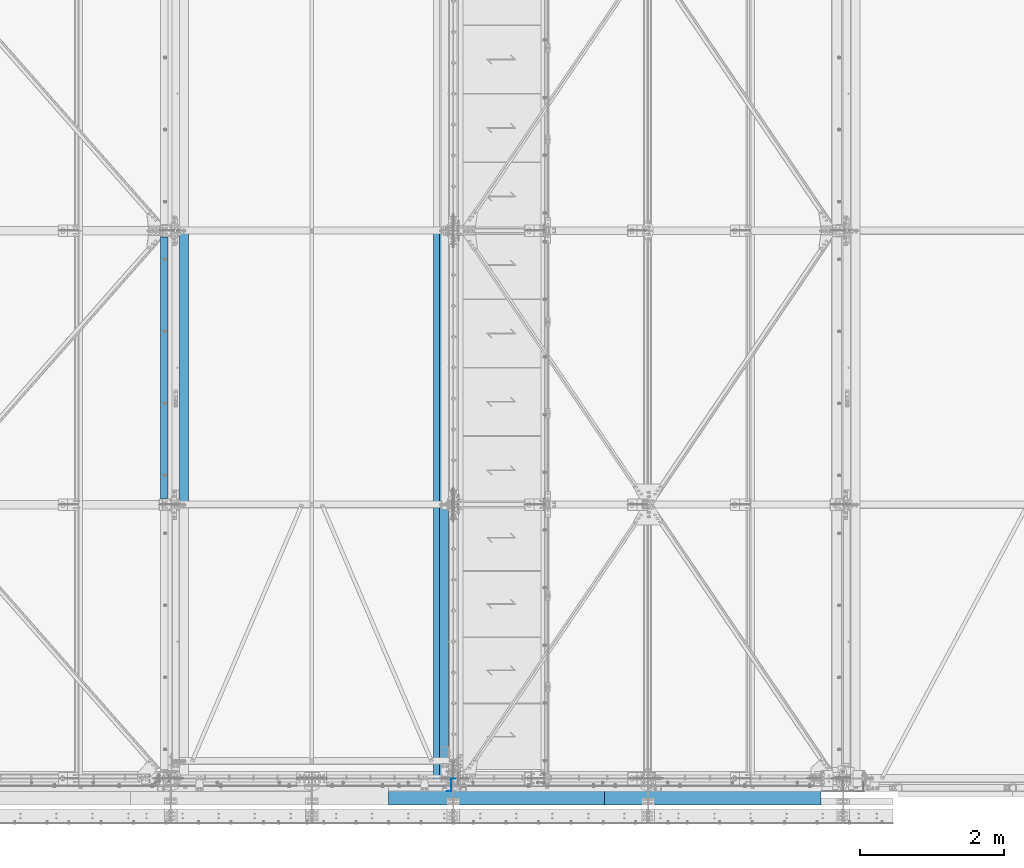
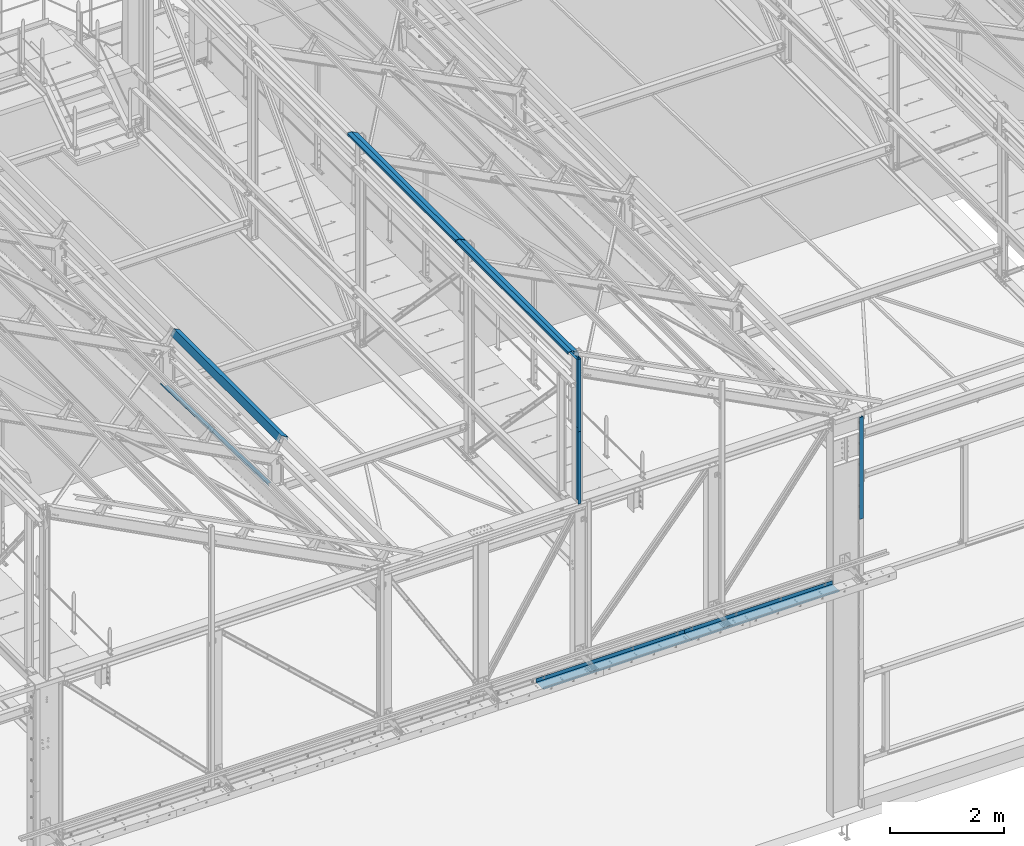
# One storey, part 346 of 362: 9 beams, 9 elements without a shape of their own.
"""IFC2X3 building model written with IfcOpenShell, lengths in millimetres."""

from ifc_helpers import new_model, si_unit, frame, origin_with_axes, place, context, subcontext, project, spatial, faceted_brep, material, type_object, element, aggregate, save


model = new_model("IFC2X3")

# Units and contexts
model_context = context("Model", 3, precision=1e-05, world=origin_with_axes())
body_context = subcontext(model_context, "Body", "Model", "MODEL_VIEW")
ifc_project = project(units=[si_unit("LENGTHUNIT", "METRE", prefix="MILLI"), si_unit("AREAUNIT", "SQUARE_METRE"), si_unit("VOLUMEUNIT", "CUBIC_METRE"), si_unit("MASSUNIT", "GRAM", prefix="KILO"), si_unit("TIMEUNIT", "SECOND"), si_unit("PLANEANGLEUNIT", "RADIAN"), si_unit("SOLIDANGLEUNIT", "STERADIAN"), si_unit("THERMODYNAMICTEMPERATUREUNIT", "DEGREE_CELSIUS"), si_unit("LUMINOUSINTENSITYUNIT", "LUMEN")], contexts=[model_context])

# Site, building, storey
site_placement = place(None, origin_with_axes())
site = spatial("IfcSite", under=ifc_project, at=site_placement, Name="Undefined", CompositionType="ELEMENT")
building_placement = place(site_placement, origin_with_axes())
building = spatial("IfcBuilding", under=site, at=building_placement, Name="Undefined", CompositionType="ELEMENT")
storey_placement = place(building_placement, origin_with_axes())
storey = spatial("IfcBuildingStorey", under=building, at=storey_placement, Name="Undefined", CompositionType="ELEMENT", Elevation=0.0)

# Assembly, beam
assembly_1_placement = place(storey_placement, origin_with_axes())
assembly_1 = element("IfcElementAssembly", 1, at=assembly_1_placement, inside=storey, Name="PANNE SHED", AssemblyPlace="NOTDEFINED", PredefinedType="NOTDEFINED")
ifc_material = material(Name="Undefined/S235-E24")
beam_type_1 = type_object("IfcBeamType", Name="PL3*3790", PredefinedType="NOTDEFINED")
beam_1_placement = place(assembly_1_placement, frame((19656.0539262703, 5700.00010459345, 8773.41543701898), z_axis=(0.0, 1.0, 0.0), x_axis=(-0.886081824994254, 0.0, 0.463528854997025)))
beam_1 = element("IfcBeam", 2, at=beam_1_placement, type_object=beam_type_1, material=ifc_material, Name="PANNE SHED", ObjectType="PL3*3790", context=body_context, shape_type="Brep", body=[
    faceted_brep([(-3.49427864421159e-08, -1.49999999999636, -1895.0), (-3.52956703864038e-08, -1.5, 1895.0), (3.49573383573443e-08, 1.5, 1895.0), (3.53102223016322e-08, 1.5, -1895.0), (47.0000011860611, 1.49999889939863, 1895.0), (47.0000011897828, 1.49999889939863, -1895.0), (50.0000011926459, -1.50000117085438, -1895.0), (50.0000011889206, -1.50000117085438, 1895.0), (47.0000010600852, 135.50000220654, 1895.00000000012), (47.0000010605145, 135.500002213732, -1894.99999999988), (50.000001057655, 138.500002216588, -1894.99999999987), (50.0000010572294, 138.500002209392, 1895.00000000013), (-88.1836776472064, 135.500002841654, 1895.0000000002), (-88.1836776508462, 135.500002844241, -1894.9999999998), (-90.0000023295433, 138.500002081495, -1894.99999999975), (-90.0000023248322, 138.500002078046, 1895.00000000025), (-124.424035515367, 66.2228546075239, 1895.00000000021), (-124.424035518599, 66.2228546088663, -1894.99999999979), (-127.082281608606, 67.6134399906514, 1895.00000000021), (-127.082281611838, 67.6134399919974, -1894.99999999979)], [[[0, 1, 2, 3]], [[3, 2, 4, 5]], [[1, 0, 6, 7]], [[5, 4, 8, 9]], [[7, 6, 10, 11]], [[9, 8, 12, 13]], [[11, 10, 14, 15]], [[13, 12, 16, 17]], [[12, 8, 4, 2, 1, 7, 11, 15, 18, 16]], [[15, 14, 19, 18]], [[14, 10, 6, 0, 3, 5, 9, 13, 17, 19]], [[18, 19, 17, 16]]]),
])
aggregate(assembly_1, [beam_1])

assembly_2_placement = place(storey_placement, origin_with_axes())
assembly_2 = element("IfcElementAssembly", 3, at=assembly_2_placement, inside=storey, Name="PANNE SHED", AssemblyPlace="NOTDEFINED", PredefinedType="NOTDEFINED")
beam_2_placement = place(assembly_2_placement, frame((23194.99999895, 5700.00015768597, 11825.822934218), z_axis=(0.0, 1.0, 0.0), x_axis=(0.0, 0.0, 1.0)))
beam_2 = element("IfcBeam", 4, at=beam_2_placement, type_object=beam_type_1, material=ifc_material, Name="PANNE SHED", ObjectType="PL3*3790", context=body_context, shape_type="Brep", body=[
    faceted_brep([(-3.49427864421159e-08, -1.49999999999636, -1895.0), (-3.52956703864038e-08, -1.5, 1895.0), (3.49573383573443e-08, 1.5, 1895.0), (3.53102223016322e-08, 1.5, -1895.0), (47.0000011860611, 1.49999889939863, 1895.0), (47.0000011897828, 1.49999889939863, -1895.0), (50.0000011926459, -1.50000117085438, -1895.0), (50.0000011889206, -1.50000117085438, 1895.0), (47.0, 83.4669820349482, 1895.0), (47.0, 83.4669820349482, -1895.0), (50.0, 84.198112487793, -1895.0), (50.0, 84.198112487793, 1895.0), (-16.2373286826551, 205.5, 1895.0), (-16.2373286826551, 205.5, -1895.0), (-14.4130535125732, 208.5, -1895.0), (-14.4130535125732, 208.5, 1895.0), (-151.413055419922, 205.5, 1895.0), (-151.413055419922, 205.5, -1895.0), (-154.413055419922, 208.5, -1895.0), (-154.413055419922, 208.5, 1895.0), (-151.413055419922, 158.5, 1895.0), (-151.413055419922, 158.5, -1895.0), (-154.413055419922, 158.5, 1895.0), (-154.413055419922, 158.5, -1895.0)], [[[0, 1, 2, 3]], [[3, 2, 4, 5]], [[1, 0, 6, 7]], [[5, 4, 8, 9]], [[7, 6, 10, 11]], [[9, 8, 12, 13]], [[11, 10, 14, 15]], [[13, 12, 16, 17]], [[15, 14, 18, 19]], [[17, 16, 20, 21]], [[16, 12, 8, 4, 2, 1, 7, 11, 15, 19, 22, 20]], [[19, 18, 23, 22]], [[18, 14, 10, 6, 0, 3, 5, 9, 13, 17, 21, 23]], [[22, 23, 21, 20]]]),
])
aggregate(assembly_2, [beam_2])

assembly_3_placement = place(storey_placement, origin_with_axes())
assembly_3 = element("IfcElementAssembly", 5, at=assembly_3_placement, inside=storey, Name="SUPPORT", AssemblyPlace="NOTDEFINED", PredefinedType="NOTDEFINED")
beam_type_2 = type_object("IfcBeamType", Name="PL3*3000", PredefinedType="NOTDEFINED")
beam_3_placement = place(assembly_3_placement, frame((27070.0, -111.5, 5080.00085614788), z_axis=(1.0, 0.0, 0.0), x_axis=(0.0, 0.0, -1.0)))
beam_3 = element("IfcBeam", 6, at=beam_3_placement, type_object=beam_type_2, material=ifc_material, Name="SUPPORT CHARGE BARDAG", ObjectType="PL3*3000", context=body_context, shape_type="Brep", body=[
    faceted_brep([(0.0, -1.5, -1500.0), (0.0, -1.5, 1500.0), (0.0, 1.5, 1500.0), (0.0, 1.5, -1500.0), (80.0, 1.5, 1500.0), (80.0, 1.5, -1500.0), (77.0, -1.5, -1500.0), (77.0, -1.5, 1500.0), (80.0, -258.5, 1500.0), (80.0, -258.5, -1500.0), (77.0, -255.5, -1500.0), (77.0, -255.5, 1500.0), (30.0000019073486, -258.5, 1500.0), (30.0000019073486, -258.5, -1500.0), (30.0000019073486, -255.5, 1500.0), (30.0000019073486, -255.5, -1500.0)], [[[0, 1, 2, 3]], [[3, 2, 4, 5]], [[1, 0, 6, 7]], [[5, 4, 8, 9]], [[7, 6, 10, 11]], [[9, 8, 12, 13]], [[8, 4, 2, 1, 7, 11, 14, 12]], [[11, 10, 15, 14]], [[10, 6, 0, 3, 5, 9, 13, 15]], [[14, 15, 13, 12]]]),
])
aggregate(assembly_3, [beam_3])

assembly_4_placement = place(storey_placement, origin_with_axes())
assembly_4 = element("IfcElementAssembly", 7, at=assembly_4_placement, inside=storey, Name="SUPPORT", AssemblyPlace="NOTDEFINED", PredefinedType="NOTDEFINED")
beam_4_placement = place(assembly_4_placement, frame((24070.0, -111.5, 5080.00085614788), z_axis=(1.0, 0.0, 0.0), x_axis=(0.0, 0.0, -1.0)))
beam_4 = element("IfcBeam", 8, at=beam_4_placement, type_object=beam_type_2, material=ifc_material, Name="SUPPORT CHARGE BARDAG", ObjectType="PL3*3000", context=body_context, shape_type="Brep", body=[
    faceted_brep([(0.0, -1.5, -1500.0), (0.0, -1.5, 1500.0), (0.0, 1.5, 1500.0), (0.0, 1.5, -1500.0), (80.0, 1.5, 1500.0), (80.0, 1.5, -1500.0), (77.0, -1.5, -1500.0), (77.0, -1.5, 1500.0), (80.0, -258.5, 1500.0), (80.0, -258.5, -1500.0), (77.0, -255.5, -1500.0), (77.0, -255.5, 1500.0), (30.0000019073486, -258.5, 1500.0), (30.0000019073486, -258.5, -1500.0), (30.0000019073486, -255.5, 1500.0), (30.0000019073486, -255.5, -1500.0)], [[[0, 1, 2, 3]], [[3, 2, 4, 5]], [[1, 0, 6, 7]], [[5, 4, 8, 9]], [[7, 6, 10, 11]], [[9, 8, 12, 13]], [[8, 4, 2, 1, 7, 11, 14, 12]], [[11, 10, 15, 14]], [[10, 6, 0, 3, 5, 9, 13, 15]], [[14, 15, 13, 12]]]),
])
aggregate(assembly_4, [beam_4])

assembly_5_placement = place(storey_placement, origin_with_axes())
assembly_5 = element("IfcElementAssembly", 9, at=assembly_5_placement, inside=storey, AssemblyPlace="NOTDEFINED", PredefinedType="NOTDEFINED")
beam_type_3 = type_object("IfcBeamType", Name="PL5*2180", PredefinedType="NOTDEFINED")
beam_5_placement = place(assembly_5_placement, frame((29080.9999667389, -177.499999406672, 7340.0000156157), z_axis=(0.0, 0.0, 1.0), x_axis=(1.0, 0.0, 0.0)))
beam_5 = element("IfcBeam", 10, at=beam_5_placement, type_object=beam_type_3, material=ifc_material, Name="FEUILLURE", ObjectType="PL5*2180", context=body_context, shape_type="Brep", body=[
    faceted_brep([(80.0000295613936, 127.499996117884, -310.003917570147), (75.0000295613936, 127.500000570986, -310.003917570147), (75.000029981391, 67.5000005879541, -310.003917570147), (80.000029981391, 67.5000006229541, -310.003917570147), (75.000029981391, 67.5000005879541, -240.003917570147), (80.000029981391, 67.5000006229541, -240.003917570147), (80.0000295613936, 127.500000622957, -240.003917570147), (75.0000295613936, 127.500000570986, -240.003917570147), (-1.04046193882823e-09, -2.50000000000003, -1090.0), (-1.04046193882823e-09, -2.50000000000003, 1090.0), (1.04409991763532e-09, 2.49999999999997, 1090.0), (1.04409991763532e-09, 2.49999999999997, -1090.0), (75.0000304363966, 2.49999996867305, 1090.0), (75.0000304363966, 2.49999996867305, -1090.0), (80.0000304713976, -2.5000000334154, -1090.0), (75.0000295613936, 127.500000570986, -1090.0), (80.0000295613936, 127.500000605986, -1090.0), (80.0000304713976, -2.5000000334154, 1090.0), (80.0000299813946, 67.4999999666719, 1090.0), (75.0000299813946, 67.4999999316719, 1090.0), (80.0000299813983, 67.4999999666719, 1009.99871063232), (75.0000299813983, 67.4999999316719, 1009.99871063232), (80.0000295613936, 127.49998852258, 1009.99871063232), (75.0000295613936, 127.500000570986, 1009.99871063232), (80.0000295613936, 127.499999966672, 739.999999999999), (75.0000295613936, 127.500000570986, 739.999999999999), (80.0000299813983, 67.4999999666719, 739.999999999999), (75.0000299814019, 67.4999999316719, 739.999999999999), (80.0000299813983, 67.4999999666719, 539.998718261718), (75.0000299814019, 67.4999999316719, 539.998718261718), (80.0000295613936, 127.499991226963, 539.998718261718), (75.0000295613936, 127.500000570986, 539.998718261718), (80.0000295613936, 127.499999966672, 199.999999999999), (75.0000295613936, 127.500000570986, 199.999999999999), (80.0000299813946, 67.4999999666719, 199.999999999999), (75.0000299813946, 67.4999999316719, 199.999999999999), (80.0000299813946, 67.4999999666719, 119.998718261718), (75.0000299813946, 67.4999999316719, 119.998718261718), (80.0000295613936, 127.499993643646, 119.998718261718), (75.0000295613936, 127.500000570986, 119.998718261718)], [[[0, 1, 2, 3]], [[3, 2, 4, 5]], [[6, 5, 4, 7]], [[8, 9, 10, 11]], [[11, 10, 12, 13]], [[14, 8, 11, 13, 15, 16]], [[9, 8, 14, 17]], [[12, 10, 9, 17, 18, 19]], [[18, 20, 21, 19]], [[22, 23, 21, 20]], [[23, 22, 24, 25]], [[24, 26, 27, 25]], [[28, 29, 27, 26]], [[30, 31, 29, 28]], [[31, 30, 32, 33]], [[32, 34, 35, 33]], [[36, 37, 35, 34]], [[38, 39, 37, 36]], [[39, 38, 6, 7]], [[2, 1, 15, 13, 12, 19, 21, 23, 25, 27, 29, 31, 33, 35, 37, 39, 7, 4]], [[16, 15, 1, 0]], [[38, 36, 34, 32, 30, 28, 26, 24, 22, 20, 18, 17, 14, 16, 0, 3, 5, 6]]]),
])
aggregate(assembly_5, [beam_5])

assembly_6_placement = place(storey_placement, origin_with_axes())
assembly_6 = element("IfcElementAssembly", 11, at=assembly_6_placement, inside=storey, Name="POUTRE", AssemblyPlace="NOTDEFINED", PredefinedType="NOTDEFINED")
beam_type_4 = type_object("IfcBeamType", Name="PL2*4000", PredefinedType="NOTDEFINED")
beam_6_placement = place(assembly_6_placement, frame((19509.9999999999, 5699.71696464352, 7871.88016099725), z_axis=(3.14103090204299e-11, 0.999506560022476, -0.0314107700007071), x_axis=(-1.0, 0.0, 0.0)))
beam_6 = element("IfcBeam", 12, at=beam_6_placement, type_object=beam_type_4, material=ifc_material, Name="POUTRE", ObjectType="PL2*4000", context=body_context, shape_type="Brep", body=[
    faceted_brep([(84.9999999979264, 0.999999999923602, 1895.93800542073), (84.9999999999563, 0.999999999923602, 1815.93800543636), (84.9999999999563, -1.00000000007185, 1815.93800543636), (84.9999999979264, -1.00000000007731, 1895.93800542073), (7.27595761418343e-12, 1.00000000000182, 1815.93800543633), (0.0, -0.999999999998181, 1815.93800543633), (97.9999999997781, 39.0000003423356, -1895.93800544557), (97.9999999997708, 0.999999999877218, -1895.93800544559), (97.9999999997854, 0.999999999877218, 1895.93800542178), (97.9999999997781, 39.0000003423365, 1895.9380054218), (99.9999999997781, 39.0000003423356, -1895.93800544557), (99.9999999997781, 39.0000003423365, 1895.9380054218), (99.9999999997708, -1.00000000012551, -1895.93800544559), (99.9999999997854, -1.0000000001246, 1895.93800542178), (85.0000000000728, -1.00000000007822, -1895.93800544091), (85.0000000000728, 0.999999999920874, -1895.9380054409), (85.0000000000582, -1.00000000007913, -1815.93800540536), (85.0000000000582, 0.999999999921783, -1815.93800540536), (0.0, 1.0, -1815.93800540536), (-7.27595761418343e-12, -1.00000000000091, -1815.93800540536)], [[[0, 1, 2, 3]], [[4, 5, 2, 1]], [[6, 7, 8, 9]], [[10, 6, 9, 11]], [[12, 10, 11, 13]], [[7, 6, 10, 12, 14, 15]], [[15, 14, 16, 17]], [[18, 17, 16, 19]], [[0, 8, 7, 15, 17, 18, 4, 1]], [[13, 11, 9, 8, 0, 3]], [[19, 16, 14, 12, 13, 3, 2, 5]], [[18, 19, 5, 4]]]),
])
aggregate(assembly_6, [beam_6])

assembly_7_placement = place(storey_placement, origin_with_axes())
assembly_7 = element("IfcElementAssembly", 13, at=assembly_7_placement, inside=storey, AssemblyPlace="NOTDEFINED", PredefinedType="NOTDEFINED")
beam_type_5 = type_object("IfcBeamType", Name="PL3*1550", PredefinedType="NOTDEFINED")
beam_7_placement = place(assembly_7_placement, frame((23500.0000002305, -4.25, 10895.0000000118), z_axis=(0.0, 0.0, 1.0), x_axis=(-1.0, 0.0, 0.0)))
beam_7 = element("IfcBeam", 14, at=beam_7_placement, type_object=beam_type_5, material=ifc_material, Name="FEUILLURE", ObjectType="PL3*1550", context=body_context, shape_type="Brep", body=[
    faceted_brep([(0.0, -1.5, -775.0), (0.0, -1.5, 775.0), (0.0, 1.5, 775.0), (0.0, 1.5, -775.0), (56.9999998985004, 1.5, 775.0), (56.9999998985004, 1.5, -775.0), (59.9999998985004, -1.5, -775.0), (59.9999998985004, -1.5, 775.0), (56.9999998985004, 175.75, 775.0), (56.9999998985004, 175.75, -775.0), (59.9999998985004, 172.75, -775.0), (59.9999998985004, 172.75, 775.0), (117.0, 175.75, 775.0), (117.0, 175.75, -775.0), (117.0, 172.75, 775.0), (117.0, 172.75, -775.0)], [[[0, 1, 2, 3]], [[3, 2, 4, 5]], [[1, 0, 6, 7]], [[5, 4, 8, 9]], [[7, 6, 10, 11]], [[9, 8, 12, 13]], [[8, 4, 2, 1, 7, 11, 14, 12]], [[11, 10, 15, 14]], [[10, 6, 0, 3, 5, 9, 13, 15]], [[14, 15, 13, 12]]]),
])
aggregate(assembly_7, [beam_7])

assembly_8_placement = place(storey_placement, origin_with_axes())
assembly_8 = element("IfcElementAssembly", 15, at=assembly_8_placement, inside=storey, AssemblyPlace="NOTDEFINED", PredefinedType="NOTDEFINED")
beam_8_placement = place(assembly_8_placement, frame((23500.0000002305, -4.25, 9345.0000000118), z_axis=(0.0, 0.0, 1.0), x_axis=(-1.0, 0.0, 0.0)))
beam_8 = element("IfcBeam", 16, at=beam_8_placement, type_object=beam_type_5, material=ifc_material, Name="FEUILLURE", ObjectType="PL3*1550", context=body_context, shape_type="Brep", body=[
    faceted_brep([(0.0, -1.5, -775.0), (0.0, -1.5, 775.0), (0.0, 1.5, 775.0), (0.0, 1.5, -775.0), (56.9999998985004, 1.5, 775.0), (56.9999998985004, 1.5, -775.0), (59.9999998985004, -1.5, -775.0), (59.9999998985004, -1.5, 775.0), (56.9999998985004, 175.75, 775.0), (56.9999998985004, 175.75, -775.0), (59.9999998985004, 172.75, -775.0), (59.9999998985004, 172.75, 775.0), (117.0, 175.75, 775.0), (117.0, 175.75, -775.0), (117.0, 172.75, 775.0), (117.0, 172.75, -775.0)], [[[0, 1, 2, 3]], [[3, 2, 4, 5]], [[1, 0, 6, 7]], [[5, 4, 8, 9]], [[7, 6, 10, 11]], [[9, 8, 12, 13]], [[8, 4, 2, 1, 7, 11, 14, 12]], [[11, 10, 15, 14]], [[10, 6, 0, 3, 5, 9, 13, 15]], [[14, 15, 13, 12]]]),
])
aggregate(assembly_8, [beam_8])

assembly_9_placement = place(storey_placement, origin_with_axes())
assembly_9 = element("IfcElementAssembly", 17, at=assembly_9_placement, inside=storey, Name="PANNE SHED", AssemblyPlace="NOTDEFINED", PredefinedType="NOTDEFINED")
beam_type_6 = type_object("IfcBeamType", Name="PL3*3950", PredefinedType="NOTDEFINED")
beam_9_placement = place(assembly_9_placement, frame((23194.99999895, 1820.00015768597, 11825.8229342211), z_axis=(0.0, -1.0, 0.0), x_axis=(0.0, 0.0, 1.0)))
beam_9 = element("IfcBeam", 18, at=beam_9_placement, type_object=beam_type_6, material=ifc_material, Name="PANNE SHED", ObjectType="PL3*3950", context=body_context, shape_type="Brep", body=[
    faceted_brep([(-4.57112037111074e-09, -1.5, -1975.0), (-2.82489054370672e-09, -1.49999999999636, 1975.0), (4.56748239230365e-09, 1.50000000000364, 1975.0), (2.82125256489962e-09, 1.5, -1975.0), (50.0, 1.5, 1975.0), (50.0, 1.5, -1975.0), (47.0, -1.5, -1975.0), (47.0, -1.5, 1975.0), (50.0, -84.198112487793, 1975.0), (50.0, -84.198112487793, -1975.0), (47.0, -83.4669820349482, -1975.0), (47.0, -83.4669820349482, 1975.0), (-14.4130535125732, -208.5, 1975.0), (-14.4130535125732, -208.5, -1975.0), (-16.2373286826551, -205.5, -1975.0), (-16.2373286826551, -205.5, 1975.0), (-154.413055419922, -208.5, 1975.0), (-154.413055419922, -208.5, -1975.0), (-151.413055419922, -205.5, -1975.0), (-151.413055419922, -205.5, 1975.0), (-154.413055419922, -158.5, 1975.0), (-154.413055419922, -158.5, -1975.0), (-151.413055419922, -158.5, 1975.0), (-151.413055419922, -158.5, -1975.0)], [[[0, 1, 2, 3]], [[3, 2, 4, 5]], [[1, 0, 6, 7]], [[5, 4, 8, 9]], [[7, 6, 10, 11]], [[9, 8, 12, 13]], [[11, 10, 14, 15]], [[13, 12, 16, 17]], [[15, 14, 18, 19]], [[17, 16, 20, 21]], [[16, 12, 8, 4, 2, 1, 7, 11, 15, 19, 22, 20]], [[19, 18, 23, 22]], [[18, 14, 10, 6, 0, 3, 5, 9, 13, 17, 21, 23]], [[22, 23, 21, 20]]]),
])
aggregate(assembly_9, [beam_9])

save(model, "model.ifc")
